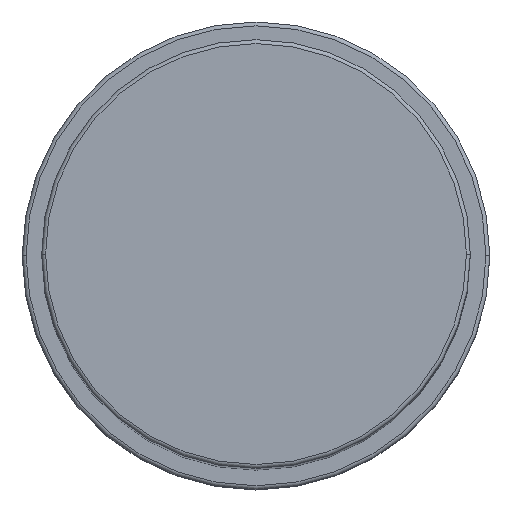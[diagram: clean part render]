
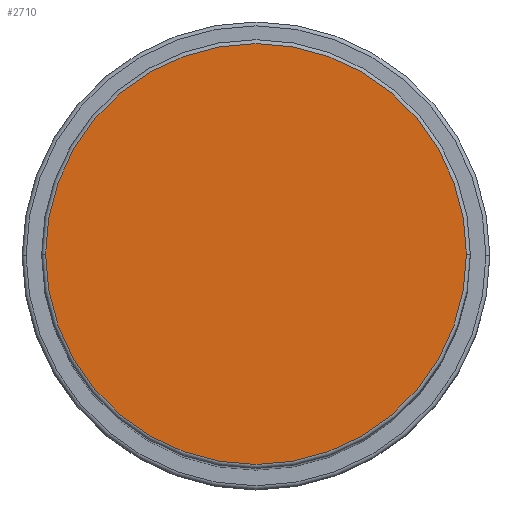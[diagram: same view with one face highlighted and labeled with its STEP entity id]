
A CAD part, top view. The second image highlights one B-rep face of the part: STEP entity #2710.
In plain terms, the highlighted planar face has unit normal (0, 0, 1).
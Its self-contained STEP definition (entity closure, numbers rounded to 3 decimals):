
#77 = CARTESIAN_POINT ( 'NONE',  ( 27., 0., 143. ) ) ;
#362 = DIRECTION ( 'NONE',  ( 0., 0., 1. ) ) ;
#480 = CARTESIAN_POINT ( 'NONE',  ( 0., 0., 143. ) ) ;
#763 = ORIENTED_EDGE ( 'NONE', *, *, #1983, .T. ) ;
#1037 = CARTESIAN_POINT ( 'NONE',  ( -27., 0., 143. ) ) ;
#1195 = VERTEX_POINT ( 'NONE', #77 ) ;
#1223 = PLANE ( 'NONE',  #2998 ) ;
#1725 = DIRECTION ( 'NONE',  ( 0., 0., 1. ) ) ;
#1983 = EDGE_CURVE ( 'NONE', #1195, #3050, #4699, .T. ) ;
#2110 = DIRECTION ( 'NONE',  ( 1., 0., 0. ) ) ;
#2394 = ORIENTED_EDGE ( 'NONE', *, *, #3307, .T. ) ;
#2397 = DIRECTION ( 'NONE',  ( 1., 0., 0. ) ) ;
#2710 = ADVANCED_FACE ( 'NONE', ( #3801 ), #1223, .T. ) ;
#2762 = AXIS2_PLACEMENT_3D ( 'NONE', #4018, #1725, #2110 ) ;
#2794 = EDGE_LOOP ( 'NONE', ( #763, #2394 ) ) ;
#2998 = AXIS2_PLACEMENT_3D ( 'NONE', #480, #3884, #4615 ) ;
#3050 = VERTEX_POINT ( 'NONE', #1037 ) ;
#3076 = CARTESIAN_POINT ( 'NONE',  ( 0., 0., 143. ) ) ;
#3307 = EDGE_CURVE ( 'NONE', #3050, #1195, #4787, .T. ) ;
#3544 = AXIS2_PLACEMENT_3D ( 'NONE', #3076, #362, #2397 ) ;
#3801 = FACE_OUTER_BOUND ( 'NONE', #2794, .T. ) ;
#3884 = DIRECTION ( 'NONE',  ( 0., 0., 1. ) ) ;
#4018 = CARTESIAN_POINT ( 'NONE',  ( 0., 0., 143. ) ) ;
#4615 = DIRECTION ( 'NONE',  ( 1., 0., 0. ) ) ;
#4699 = CIRCLE ( 'NONE', #3544, 27. ) ;
#4787 = CIRCLE ( 'NONE', #2762, 27. ) ;
